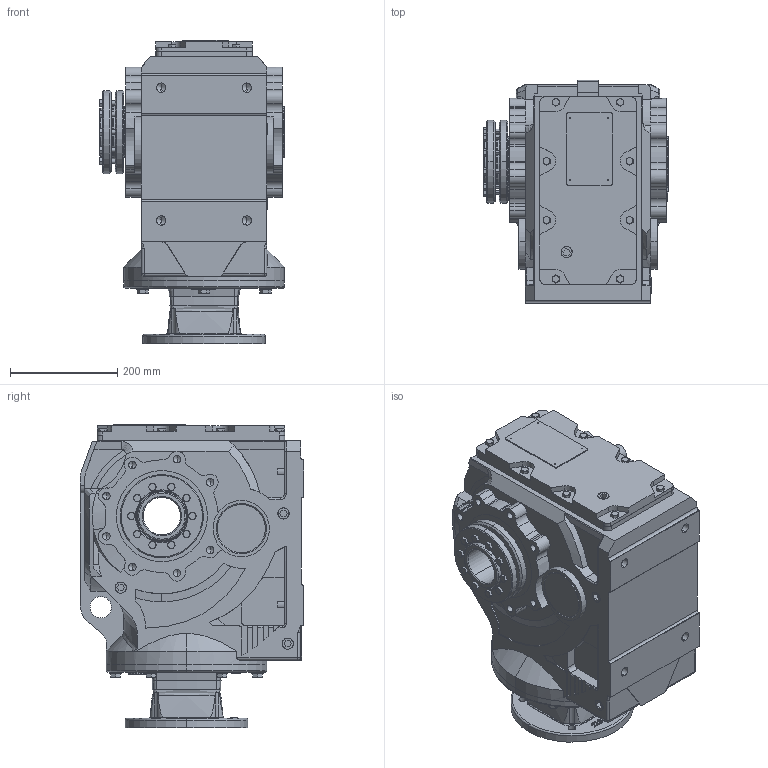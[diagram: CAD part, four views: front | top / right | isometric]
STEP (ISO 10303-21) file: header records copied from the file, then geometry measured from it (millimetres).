
FILE_DESCRIPTION (( 'STEP AP203' ), '1' );
FILE_NAME ('KAN97-213TC-B-POWER LOCK.STEP', '2020-11-25T03:11:34', ( 'Microsoft' ), ( 'Microsoft' ), 'SwSTEP 2.0', 'SolidWorks 2012', '' );
FILE_SCHEMA (( 'CONFIG_CONTROL_DESIGN' ));
Length unit declared in the file: millimetre
Products named in the file (1): KAN97-213TC-B-POWER LOCK
Bounding box: 345 x 417.5 x 565.5 mm (x, y, z)
Volume: 42299877.5 mm3; surface area: 1387125.8 mm2
Topology: 2 solids, 10 shells, 1789 faces, 4523 edges, 2840 vertices
Faces by surface type: plane 716, cylinder 542, cone 345, bspline 141, torus 42, sphere 3
Entity records: 64352 total; most frequent: CARTESIAN_POINT 22051, ORIENTED_EDGE 8896, DIRECTION 8602, EDGE_CURVE 4448, AXIS2_PLACEMENT_3D 3160, VERTEX_POINT 2840, LINE 2282, VECTOR 2282
